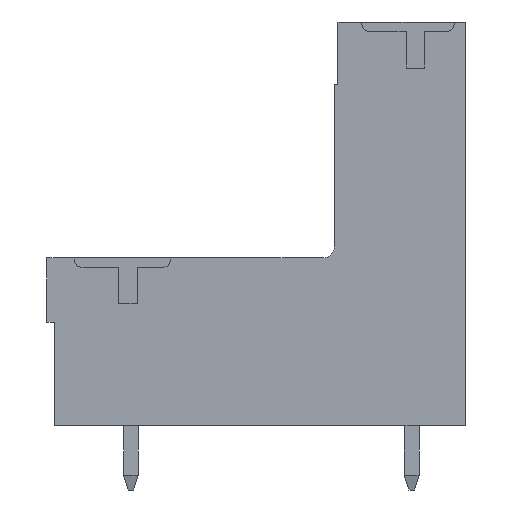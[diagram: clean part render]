
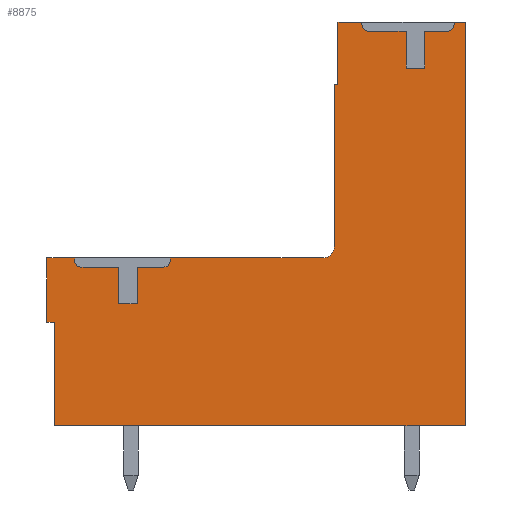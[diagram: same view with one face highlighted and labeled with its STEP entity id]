
A CAD part, left-side view. The second image highlights one B-rep face of the part: STEP entity #8875.
In plain terms, the highlighted planar face has unit normal (-1, 0, 0).
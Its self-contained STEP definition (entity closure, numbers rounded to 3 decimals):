
#5=DIRECTION('',(0.,1.,0.));
#6=VECTOR('',#5,0.6);
#7=CARTESIAN_POINT('',(15.1,0.,0.));
#8=LINE('',#7,#6);
#17=DIRECTION('',(0.,1.,0.));
#18=VECTOR('',#17,1.3);
#19=CARTESIAN_POINT('',(15.1,5.6,0.));
#20=LINE('',#19,#18);
#1310=DIRECTION('',(0.,-1.,0.));
#1311=VECTOR('',#1310,22.3);
#1312=CARTESIAN_POINT('',(15.1,22.3,-21.9));
#1313=LINE('',#1312,#1311);
#1330=DIRECTION('',(0.,0.,-1.));
#1331=VECTOR('',#1330,5.6);
#1332=CARTESIAN_POINT('',(15.1,22.3,-16.3));
#1333=LINE('',#1332,#1331);
#1457=DIRECTION('',(0.,1.,0.));
#1458=VECTOR('',#1457,8.3);
#1459=CARTESIAN_POINT('',(15.1,7.7,-12.8));
#1460=LINE('',#1459,#1458);
#1469=DIRECTION('',(0.,1.,0.));
#1470=VECTOR('',#1469,1.5);
#1471=CARTESIAN_POINT('',(15.1,21.2,-12.8));
#1472=LINE('',#1471,#1470);
#2458=CARTESIAN_POINT('',(15.1,5.25,-0.15));
#2459=DIRECTION('',(-1.,0.,0.));
#2460=DIRECTION('',(0.,1.,0.));
#2461=AXIS2_PLACEMENT_3D('',#2458,#2459,#2460);
#2463=DIRECTION('',(0.,-1.,0.));
#2464=VECTOR('',#2463,2.05);
#2465=CARTESIAN_POINT('',(15.1,5.25,-0.5));
#2466=LINE('',#2465,#2464);
#2467=DIRECTION('',(0.,0.,-1.));
#2468=VECTOR('',#2467,2.);
#2469=CARTESIAN_POINT('',(15.1,3.2,-0.5));
#2470=LINE('',#2469,#2468);
#2471=DIRECTION('',(0.,-1.,0.));
#2472=VECTOR('',#2471,1.);
#2473=CARTESIAN_POINT('',(15.1,3.2,-2.5));
#2474=LINE('',#2473,#2472);
#2475=DIRECTION('',(0.,0.,1.));
#2476=VECTOR('',#2475,2.);
#2477=CARTESIAN_POINT('',(15.1,2.2,-2.5));
#2478=LINE('',#2477,#2476);
#2479=DIRECTION('',(0.,-1.,0.));
#2480=VECTOR('',#2479,1.25);
#2481=CARTESIAN_POINT('',(15.1,2.2,-0.5));
#2482=LINE('',#2481,#2480);
#2483=CARTESIAN_POINT('',(15.1,0.95,-0.15));
#2484=DIRECTION('',(-1.,0.,0.));
#2485=DIRECTION('',(0.,0.,-1.));
#2486=AXIS2_PLACEMENT_3D('',#2483,#2484,#2485);
#2488=DIRECTION('',(0.,0.,1.));
#2489=VECTOR('',#2488,0.15);
#2490=CARTESIAN_POINT('',(15.1,0.6,-0.15));
#2491=LINE('',#2490,#2489);
#2492=DIRECTION('',(0.,0.,-1.));
#2493=VECTOR('',#2492,21.9);
#2494=CARTESIAN_POINT('',(15.1,0.,0.));
#2495=LINE('',#2494,#2493);
#2496=DIRECTION('',(0.,1.,0.));
#2497=VECTOR('',#2496,0.4);
#2498=CARTESIAN_POINT('',(15.1,22.3,-16.3));
#2499=LINE('',#2498,#2497);
#2500=DIRECTION('',(0.,0.,1.));
#2501=VECTOR('',#2500,3.5);
#2502=CARTESIAN_POINT('',(15.1,22.7,-16.3));
#2503=LINE('',#2502,#2501);
#2504=DIRECTION('',(0.,0.,-1.));
#2505=VECTOR('',#2504,0.15);
#2506=CARTESIAN_POINT('',(15.1,21.2,-12.8));
#2507=LINE('',#2506,#2505);
#2508=CARTESIAN_POINT('',(15.1,20.85,-12.95));
#2509=DIRECTION('',(-1.,0.,0.));
#2510=DIRECTION('',(0.,1.,0.));
#2511=AXIS2_PLACEMENT_3D('',#2508,#2509,#2510);
#2513=DIRECTION('',(0.,-1.,0.));
#2514=VECTOR('',#2513,2.05);
#2515=CARTESIAN_POINT('',(15.1,20.85,-13.3));
#2516=LINE('',#2515,#2514);
#2517=DIRECTION('',(0.,0.,-1.));
#2518=VECTOR('',#2517,2.);
#2519=CARTESIAN_POINT('',(15.1,18.8,-13.3));
#2520=LINE('',#2519,#2518);
#2521=DIRECTION('',(0.,-1.,0.));
#2522=VECTOR('',#2521,1.);
#2523=CARTESIAN_POINT('',(15.1,18.8,-15.3));
#2524=LINE('',#2523,#2522);
#2525=DIRECTION('',(0.,0.,1.));
#2526=VECTOR('',#2525,2.);
#2527=CARTESIAN_POINT('',(15.1,17.8,-15.3));
#2528=LINE('',#2527,#2526);
#2529=DIRECTION('',(0.,-1.,0.));
#2530=VECTOR('',#2529,1.45);
#2531=CARTESIAN_POINT('',(15.1,17.8,-13.3));
#2532=LINE('',#2531,#2530);
#2533=CARTESIAN_POINT('',(15.1,16.35,-12.95));
#2534=DIRECTION('',(-1.,0.,0.));
#2535=DIRECTION('',(0.,0.,-1.));
#2536=AXIS2_PLACEMENT_3D('',#2533,#2534,#2535);
#2538=DIRECTION('',(0.,0.,1.));
#2539=VECTOR('',#2538,0.15);
#2540=CARTESIAN_POINT('',(15.1,16.,-12.95));
#2541=LINE('',#2540,#2539);
#2542=CARTESIAN_POINT('',(15.1,7.7,-12.2));
#2543=DIRECTION('',(-1.,0.,0.));
#2544=DIRECTION('',(0.,0.,-1.));
#2545=AXIS2_PLACEMENT_3D('',#2542,#2543,#2544);
#2547=DIRECTION('',(0.,0.,1.));
#2548=VECTOR('',#2547,8.8);
#2549=CARTESIAN_POINT('',(15.1,7.1,-12.2));
#2550=LINE('',#2549,#2548);
#2551=DIRECTION('',(0.,-1.,0.));
#2552=VECTOR('',#2551,0.2);
#2553=CARTESIAN_POINT('',(15.1,7.1,-3.4));
#2554=LINE('',#2553,#2552);
#2555=DIRECTION('',(0.,0.,1.));
#2556=VECTOR('',#2555,3.4);
#2557=CARTESIAN_POINT('',(15.1,6.9,-3.4));
#2558=LINE('',#2557,#2556);
#2559=DIRECTION('',(0.,0.,1.));
#2560=VECTOR('',#2559,0.15);
#2561=CARTESIAN_POINT('',(15.1,5.6,-0.15));
#2562=LINE('',#2561,#2560);
#3902=CARTESIAN_POINT('',(15.1,0.,0.));
#3904=VERTEX_POINT('',#3902);
#3905=CARTESIAN_POINT('',(15.1,0.6,0.));
#3906=VERTEX_POINT('',#3905);
#3911=CARTESIAN_POINT('',(15.1,5.6,0.));
#3912=VERTEX_POINT('',#3911);
#3913=CARTESIAN_POINT('',(15.1,6.9,0.));
#3914=VERTEX_POINT('',#3913);
#4025=CARTESIAN_POINT('',(15.1,0.,-21.9));
#4026=VERTEX_POINT('',#4025);
#4196=CARTESIAN_POINT('',(15.1,22.3,-21.9));
#4198=VERTEX_POINT('',#4196);
#4199=CARTESIAN_POINT('',(15.1,22.3,-16.3));
#4201=VERTEX_POINT('',#4199);
#4203=CARTESIAN_POINT('',(15.1,22.7,-16.3));
#4205=VERTEX_POINT('',#4203);
#4208=CARTESIAN_POINT('',(15.1,22.7,-12.8));
#4210=VERTEX_POINT('',#4208);
#4211=CARTESIAN_POINT('',(15.1,7.7,-12.8));
#4212=CARTESIAN_POINT('',(15.1,16.,-12.8));
#4213=VERTEX_POINT('',#4211);
#4214=VERTEX_POINT('',#4212);
#4219=CARTESIAN_POINT('',(15.1,21.2,-12.8));
#4220=VERTEX_POINT('',#4219);
#4316=CARTESIAN_POINT('',(15.1,7.1,-12.2));
#4318=VERTEX_POINT('',#4316);
#4319=CARTESIAN_POINT('',(15.1,7.1,-3.4));
#4321=VERTEX_POINT('',#4319);
#4323=CARTESIAN_POINT('',(15.1,6.9,-3.4));
#4325=VERTEX_POINT('',#4323);
#4327=CARTESIAN_POINT('',(15.1,5.6,-0.15));
#4328=VERTEX_POINT('',#4327);
#4329=CARTESIAN_POINT('',(15.1,5.25,-0.5));
#4330=VERTEX_POINT('',#4329);
#4331=CARTESIAN_POINT('',(15.1,3.2,-0.5));
#4332=VERTEX_POINT('',#4331);
#4333=CARTESIAN_POINT('',(15.1,3.2,-2.5));
#4334=VERTEX_POINT('',#4333);
#4335=CARTESIAN_POINT('',(15.1,2.2,-2.5));
#4336=VERTEX_POINT('',#4335);
#4337=CARTESIAN_POINT('',(15.1,2.2,-0.5));
#4338=VERTEX_POINT('',#4337);
#4339=CARTESIAN_POINT('',(15.1,0.95,-0.5));
#4340=VERTEX_POINT('',#4339);
#4341=CARTESIAN_POINT('',(15.1,0.6,-0.15));
#4342=VERTEX_POINT('',#4341);
#4343=CARTESIAN_POINT('',(15.1,21.2,-12.95));
#4344=VERTEX_POINT('',#4343);
#4345=CARTESIAN_POINT('',(15.1,20.85,-13.3));
#4346=VERTEX_POINT('',#4345);
#4347=CARTESIAN_POINT('',(15.1,18.8,-13.3));
#4348=VERTEX_POINT('',#4347);
#4349=CARTESIAN_POINT('',(15.1,18.8,-15.3));
#4350=VERTEX_POINT('',#4349);
#4351=CARTESIAN_POINT('',(15.1,17.8,-15.3));
#4352=VERTEX_POINT('',#4351);
#4353=CARTESIAN_POINT('',(15.1,17.8,-13.3));
#4354=VERTEX_POINT('',#4353);
#4355=CARTESIAN_POINT('',(15.1,16.35,-13.3));
#4356=VERTEX_POINT('',#4355);
#4357=CARTESIAN_POINT('',(15.1,16.,-12.95));
#4358=VERTEX_POINT('',#4357);
#8817=CARTESIAN_POINT('',(15.1,22.7,0.));
#8818=DIRECTION('',(-1.,0.,0.));
#8819=DIRECTION('',(0.,-1.,0.));
#8820=AXIS2_PLACEMENT_3D('',#8817,#8818,#8819);
#8821=PLANE('',#8820);
#8823=ORIENTED_EDGE('',*,*,#8822,.F.);
#8825=ORIENTED_EDGE('',*,*,#8824,.T.);
#8827=ORIENTED_EDGE('',*,*,#8826,.T.);
#8829=ORIENTED_EDGE('',*,*,#8828,.T.);
#8831=ORIENTED_EDGE('',*,*,#8830,.T.);
#8833=ORIENTED_EDGE('',*,*,#8832,.T.);
#8835=ORIENTED_EDGE('',*,*,#8834,.T.);
#8837=ORIENTED_EDGE('',*,*,#8836,.T.);
#8839=ORIENTED_EDGE('',*,*,#8838,.T.);
#8840=ORIENTED_EDGE('',*,*,#5130,.F.);
#8841=ORIENTED_EDGE('',*,*,#5266,.T.);
#8842=ORIENTED_EDGE('',*,*,#7127,.F.);
#8843=ORIENTED_EDGE('',*,*,#7147,.F.);
#8844=ORIENTED_EDGE('',*,*,#7162,.T.);
#8845=ORIENTED_EDGE('',*,*,#7177,.T.);
#8846=ORIENTED_EDGE('',*,*,#7200,.F.);
#8848=ORIENTED_EDGE('',*,*,#8847,.T.);
#8850=ORIENTED_EDGE('',*,*,#8849,.T.);
#8852=ORIENTED_EDGE('',*,*,#8851,.T.);
#8854=ORIENTED_EDGE('',*,*,#8853,.T.);
#8856=ORIENTED_EDGE('',*,*,#8855,.T.);
#8858=ORIENTED_EDGE('',*,*,#8857,.T.);
#8860=ORIENTED_EDGE('',*,*,#8859,.T.);
#8862=ORIENTED_EDGE('',*,*,#8861,.T.);
#8864=ORIENTED_EDGE('',*,*,#8863,.T.);
#8865=ORIENTED_EDGE('',*,*,#7192,.F.);
#8866=ORIENTED_EDGE('',*,*,#8595,.T.);
#8868=ORIENTED_EDGE('',*,*,#8867,.T.);
#8870=ORIENTED_EDGE('',*,*,#8869,.T.);
#8871=ORIENTED_EDGE('',*,*,#8809,.T.);
#8872=ORIENTED_EDGE('',*,*,#5138,.F.);
#8873=EDGE_LOOP('',(#8823,#8825,#8827,#8829,#8831,#8833,#8835,#8837,#8839,#8840,
#8841,#8842,#8843,#8844,#8845,#8846,#8848,#8850,#8852,#8854,#8856,#8858,#8860,
#8862,#8864,#8865,#8866,#8868,#8870,#8871,#8872));
#8874=FACE_OUTER_BOUND('',#8873,.F.);
#8875=ADVANCED_FACE('',(#8874),#8821,.T.);
#2462=CIRCLE('',#2461,0.35);
#2487=CIRCLE('',#2486,0.35);
#2512=CIRCLE('',#2511,0.35);
#2537=CIRCLE('',#2536,0.35);
#2546=CIRCLE('',#2545,0.6);
#5130=EDGE_CURVE('',#3904,#3906,#8,.T.);
#5138=EDGE_CURVE('',#3912,#3914,#20,.T.);
#5266=EDGE_CURVE('',#3904,#4026,#2495,.T.);
#7127=EDGE_CURVE('',#4198,#4026,#1313,.T.);
#7147=EDGE_CURVE('',#4201,#4198,#1333,.T.);
#7162=EDGE_CURVE('',#4201,#4205,#2499,.T.);
#7177=EDGE_CURVE('',#4205,#4210,#2503,.T.);
#7192=EDGE_CURVE('',#4213,#4214,#1460,.T.);
#7200=EDGE_CURVE('',#4220,#4210,#1472,.T.);
#8595=EDGE_CURVE('',#4213,#4318,#2546,.T.);
#8809=EDGE_CURVE('',#4325,#3914,#2558,.T.);
#8822=EDGE_CURVE('',#4328,#3912,#2562,.T.);
#8824=EDGE_CURVE('',#4328,#4330,#2462,.T.);
#8826=EDGE_CURVE('',#4330,#4332,#2466,.T.);
#8828=EDGE_CURVE('',#4332,#4334,#2470,.T.);
#8830=EDGE_CURVE('',#4334,#4336,#2474,.T.);
#8832=EDGE_CURVE('',#4336,#4338,#2478,.T.);
#8834=EDGE_CURVE('',#4338,#4340,#2482,.T.);
#8836=EDGE_CURVE('',#4340,#4342,#2487,.T.);
#8838=EDGE_CURVE('',#4342,#3906,#2491,.T.);
#8847=EDGE_CURVE('',#4220,#4344,#2507,.T.);
#8849=EDGE_CURVE('',#4344,#4346,#2512,.T.);
#8851=EDGE_CURVE('',#4346,#4348,#2516,.T.);
#8853=EDGE_CURVE('',#4348,#4350,#2520,.T.);
#8855=EDGE_CURVE('',#4350,#4352,#2524,.T.);
#8857=EDGE_CURVE('',#4352,#4354,#2528,.T.);
#8859=EDGE_CURVE('',#4354,#4356,#2532,.T.);
#8861=EDGE_CURVE('',#4356,#4358,#2537,.T.);
#8863=EDGE_CURVE('',#4358,#4214,#2541,.T.);
#8867=EDGE_CURVE('',#4318,#4321,#2550,.T.);
#8869=EDGE_CURVE('',#4321,#4325,#2554,.T.);
